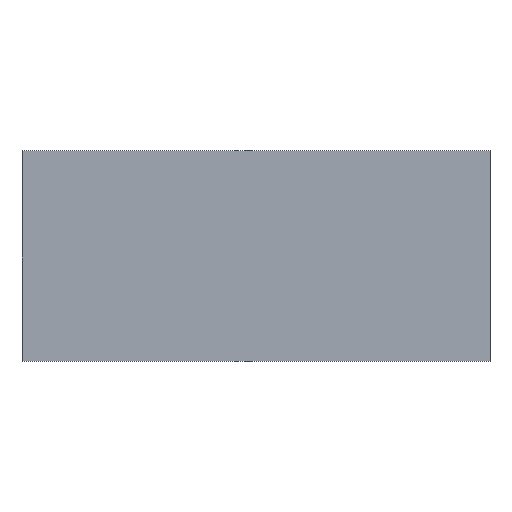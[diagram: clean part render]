
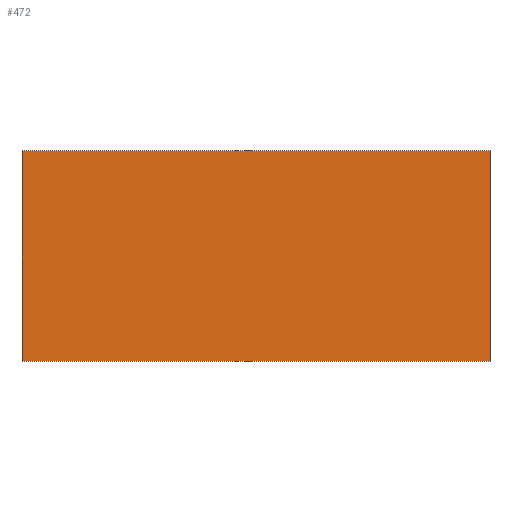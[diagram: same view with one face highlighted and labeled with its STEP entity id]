
A CAD part, top view. The second image highlights one B-rep face of the part: STEP entity #472.
In plain terms, the highlighted planar face has unit normal (0, 0, 1) as drawn and (0, 1, 0) by its records, which use the part's own axes.
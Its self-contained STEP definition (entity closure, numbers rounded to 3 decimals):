
#472=ADVANCED_FACE('',(#1244),#12543,.T.);
#1244=FACE_OUTER_BOUND('',#2039,.T.);
#2039=EDGE_LOOP('',(#4219,#4220,#4221,#4222));
#4219=ORIENTED_EDGE('',*,*,#7459,.T.);
#4220=ORIENTED_EDGE('',*,*,#7463,.T.);
#4221=ORIENTED_EDGE('',*,*,#7466,.T.);
#4222=ORIENTED_EDGE('',*,*,#7468,.T.);
#7459=EDGE_CURVE('',#11673,#11672,#9668,.T.);
#7463=EDGE_CURVE('',#11672,#11675,#9672,.T.);
#7466=EDGE_CURVE('',#11675,#11677,#9675,.T.);
#7468=EDGE_CURVE('',#11677,#11673,#9677,.T.);
#9668=B_SPLINE_CURVE_WITH_KNOTS('',1,(#45096,#45097),.UNSPECIFIED.,.F.,
 .F.,(2,2),(-900.,0.),.UNSPECIFIED.);
#9672=B_SPLINE_CURVE_WITH_KNOTS('',1,(#45104,#45105),.UNSPECIFIED.,.F.,
 .F.,(2,2),(-2000.,0.),.UNSPECIFIED.);
#9675=B_SPLINE_CURVE_WITH_KNOTS('',1,(#45110,#45111),.UNSPECIFIED.,.F.,
 .F.,(2,2),(-900.,0.),.UNSPECIFIED.);
#9677=B_SPLINE_CURVE_WITH_KNOTS('',1,(#45114,#45115),.UNSPECIFIED.,.F.,
 .F.,(2,2),(-2000.,0.),.UNSPECIFIED.);
#11672=VERTEX_POINT('',#45086);
#11673=VERTEX_POINT('',#45087);
#11675=VERTEX_POINT('',#45089);
#11677=VERTEX_POINT('',#45091);
#12543=PLANE('',#13812);
#13812=AXIS2_PLACEMENT_3D('',#45082,#15072,$);
#15072=DIRECTION('',(0.,1.,0.));
#45082=CARTESIAN_POINT('',(-1200.,22.,-540.));
#45086=CARTESIAN_POINT('',(-1000.,22.,450.));
#45087=CARTESIAN_POINT('',(-1000.,22.,-450.));
#45089=CARTESIAN_POINT('',(1000.,22.,450.));
#45091=CARTESIAN_POINT('',(1000.,22.,-450.));
#45096=CARTESIAN_POINT('',(-1000.,22.,-450.));
#45097=CARTESIAN_POINT('',(-1000.,22.,450.));
#45104=CARTESIAN_POINT('',(-1000.,22.,450.));
#45105=CARTESIAN_POINT('',(1000.,22.,450.));
#45110=CARTESIAN_POINT('',(1000.,22.,450.));
#45111=CARTESIAN_POINT('',(1000.,22.,-450.));
#45114=CARTESIAN_POINT('',(1000.,22.,-450.));
#45115=CARTESIAN_POINT('',(-1000.,22.,-450.));
